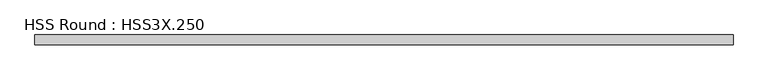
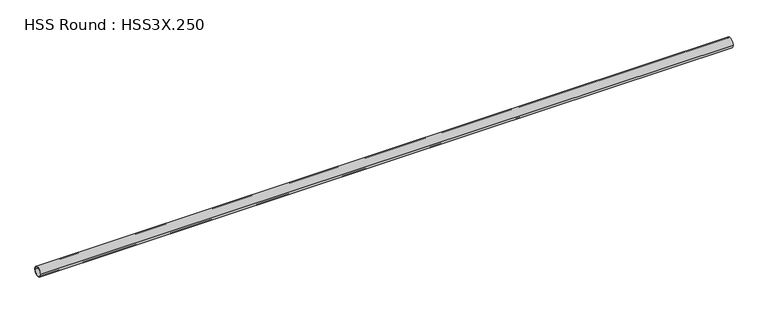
"""IFC4 building model written with IfcOpenShell, lengths in millimetres: member geometry, HSS Round : HSS3X.250."""

from ifc_helpers import new_model, si_unit, point, frame, origin, origin_2d, place, context, project, spatial, circle_curve, trimmed, segment, composite_curve, outline, extrude, source, transform, mapped, element, save


def hss_round_hss3x_250_2c127729(model_context):
    return source(origin(), model_context, "Body", "SweptSolid", [
        extrude(outline(composite_curve([segment(trimmed(circle_curve(origin_2d(), 38.1), [point((-38.1, 0.0))], [point((38.1, 0.0))], False, "CARTESIAN"), True, "CONTINUOUS"), segment(trimmed(circle_curve(origin_2d(), 38.1), [point((38.1, 0.0))], [point((-38.1, 0.0))], False, "CARTESIAN"), True, "CONTINUOUS")], self_intersect=False), holes=[composite_curve([segment(trimmed(circle_curve(origin_2d(), 31.75), [point((31.75, 0.0))], [point((-31.75, 0.0))], True, "CARTESIAN"), True, "CONTINUOUS"), segment(trimmed(circle_curve(origin_2d(), 31.75), [point((-31.75, 0.0))], [point((31.75, 0.0))], True, "CARTESIAN"), True, "CONTINUOUS")], self_intersect=False)]), frame((-2627.6644471, 0.0, 0.0), z_axis=(1.0, 0.0, 0.0), x_axis=(0.0, 1.0, 0.0)), (0.0, 0.0, 1.0), 5428.0536756),
    ])


if __name__ == "__main__":
    model = new_model("IFC4")
    model_context = context("Model", 3, world=origin())
    ifc_project = project(units=[si_unit("LENGTHUNIT", "METRE", prefix="MILLI")], contexts=[model_context])
    site = spatial("IfcSite", under=ifc_project)
    building = spatial("IfcBuilding", under=site)
    placement = place(None, origin())
    hss_round_hss3x_250_shape = hss_round_hss3x_250_2c127729(model_context)
    element("IfcMember", 1, ObjectType="HSS Round : HSS3X.250", at=placement, inside=building, context=model_context, shape_type="MappedRepresentation", body=[
        mapped(hss_round_hss3x_250_shape, transform((0.0, 0.0, 0.0), x_axis=(1.0, 0.0, 0.0), y_axis=(0.0, 1.0, 0.0), z_axis=(0.0, 0.0, 1.0))),
    ])
    save(model, "model.ifc")
